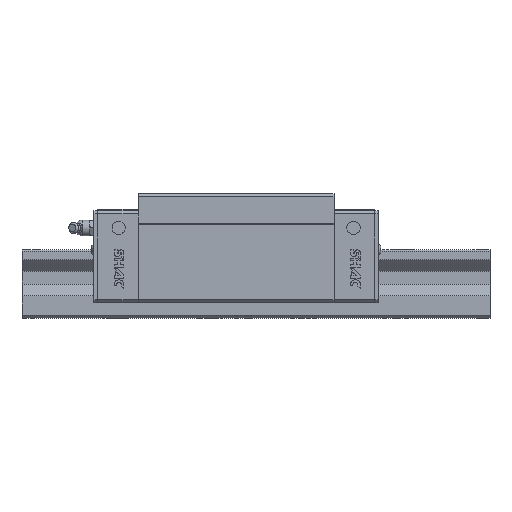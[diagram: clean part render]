
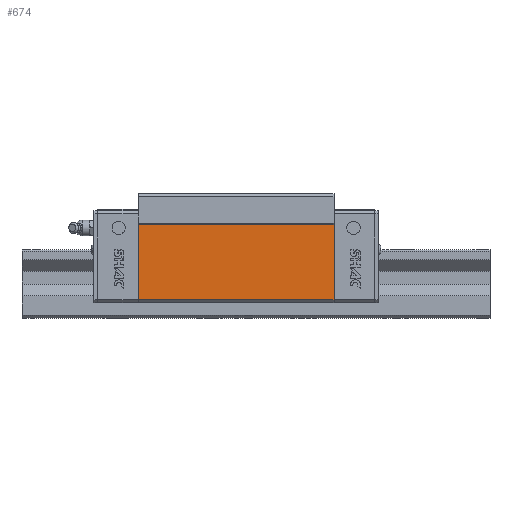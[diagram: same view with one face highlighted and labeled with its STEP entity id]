
A CAD part, top view. The second image highlights one B-rep face of the part: STEP entity #674.
In plain terms, the highlighted planar face has unit normal (0, 0, 1).
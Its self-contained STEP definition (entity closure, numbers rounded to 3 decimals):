
#674 = ADVANCED_FACE( '', ( #1678 ), #1679, .F. );
#1678 = FACE_OUTER_BOUND( '', #3173, .T. );
#1679 = PLANE( '', #3174 );
#3173 = EDGE_LOOP( '', ( #4734, #4735, #4736, #4737 ) );
#3174 = AXIS2_PLACEMENT_3D( '', #4738, #4739, #4740 );
#4734 = ORIENTED_EDGE( '', *, *, #8879, .T. );
#4735 = ORIENTED_EDGE( '', *, *, #8880, .F. );
#4736 = ORIENTED_EDGE( '', *, *, #8881, .F. );
#4737 = ORIENTED_EDGE( '', *, *, #8882, .T. );
#4738 = CARTESIAN_POINT( '', ( 62.75, 50., 49. ) );
#4739 = DIRECTION( '', ( 0., 0., -1. ) );
#4740 = DIRECTION( '', ( -1., 0., 0. ) );
#8879 = EDGE_CURVE( '', #10505, #10506, #10507, .T. );
#8880 = EDGE_CURVE( '', #10508, #10506, #10509, .T. );
#8881 = EDGE_CURVE( '', #10510, #10508, #10511, .T. );
#8882 = EDGE_CURVE( '', #10510, #10505, #10512, .T. );
#10505 = VERTEX_POINT( '', #12912 );
#10506 = VERTEX_POINT( '', #12913 );
#10507 = LINE( '', #12914, #12915 );
#10508 = VERTEX_POINT( '', #12916 );
#10509 = LINE( '', #12917, #12918 );
#10510 = VERTEX_POINT( '', #12919 );
#10511 = LINE( '', #12920, #12921 );
#10512 = LINE( '', #12922, #12923 );
#12912 = CARTESIAN_POINT( '', ( -62.75, 50., 49. ) );
#12913 = CARTESIAN_POINT( '', ( -62.75, 2., 49. ) );
#12914 = CARTESIAN_POINT( '', ( -62.75, 50., 49. ) );
#12915 = VECTOR( '', #16501, 1000. );
#12916 = CARTESIAN_POINT( '', ( 62.75, 2., 49. ) );
#12917 = CARTESIAN_POINT( '', ( 62.75, 2., 49. ) );
#12918 = VECTOR( '', #16502, 1000. );
#12919 = CARTESIAN_POINT( '', ( 62.75, 50., 49. ) );
#12920 = CARTESIAN_POINT( '', ( 62.75, 50., 49. ) );
#12921 = VECTOR( '', #16503, 1000. );
#12922 = CARTESIAN_POINT( '', ( 62.75, 50., 49. ) );
#12923 = VECTOR( '', #16504, 1000. );
#16501 = DIRECTION( '', ( 0., -1., 0. ) );
#16502 = DIRECTION( '', ( -1., 0., 0. ) );
#16503 = DIRECTION( '', ( 0., -1., 0. ) );
#16504 = DIRECTION( '', ( -1., 0., 0. ) );
